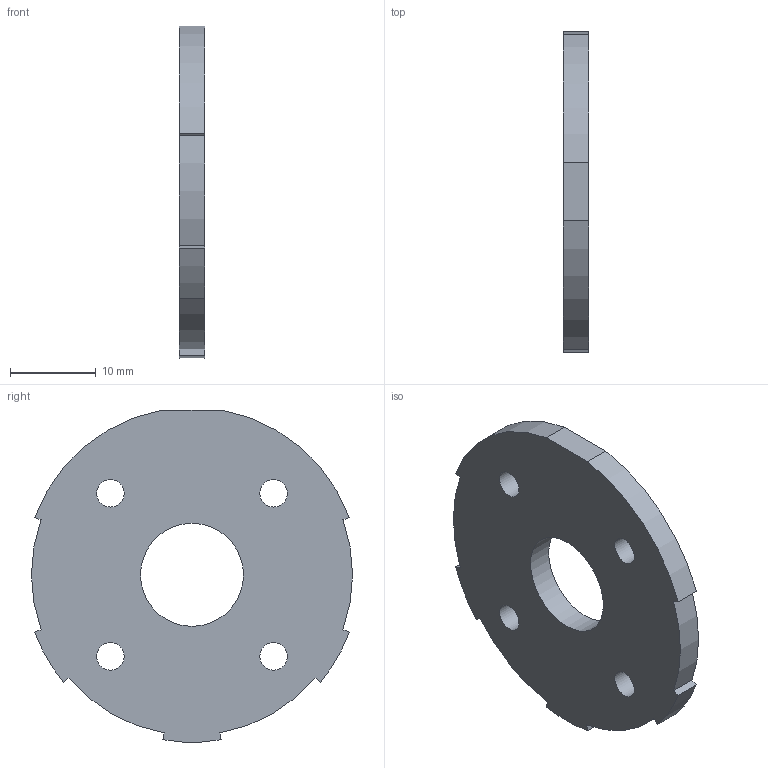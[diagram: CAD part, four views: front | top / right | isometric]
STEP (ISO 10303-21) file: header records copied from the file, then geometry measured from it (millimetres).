
FILE_DESCRIPTION(('Open CASCADE Model'),'2;1');
FILE_NAME('Open CASCADE Shape Model','2026-10-04T08:08:22',('Author'),( 'Open CASCADE'),'Open CASCADE STEP processor 7.9','Open CASCADE 7.9' ,'Unknown');
FILE_SCHEMA(('AUTOMOTIVE_DESIGN { 1 0 10303 214 1 1 1 1 }'));
Length unit declared in the file: millimetre
Products named in the file (1): Open CASCADE STEP translator 7.9 21
Bounding box: 3 x 37.4 x 38.67 mm (x, y, z)
Volume: 3015.9 mm3; surface area: 2624.3 mm2
Topology: 1 solids, 1 shells, 25 faces, 69 edges, 46 vertices
Faces by surface type: cylinder 14, plane 11
Full cylindrical faces by diameter (mm): 3.2 x4, 12 x1
Entity records: 1666 total; most frequent: CARTESIAN_POINT 351, DIRECTION 215, ORIENTED_EDGE 138, PCURVE 138, DEFINITIONAL_REPRESENTATION 138, LINE 79, VECTOR 79, B_SPLINE_CURVE_WITH_KNOTS 72
